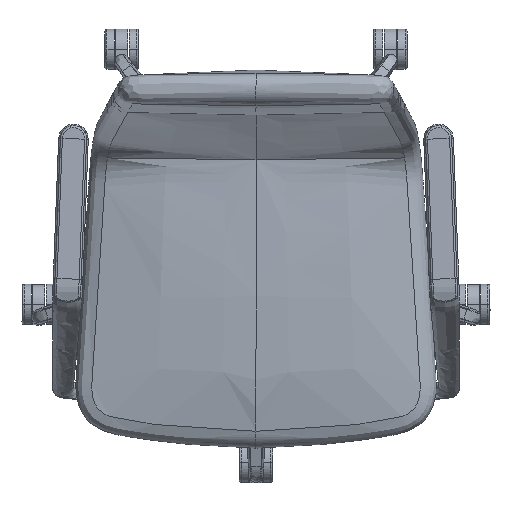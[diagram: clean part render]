
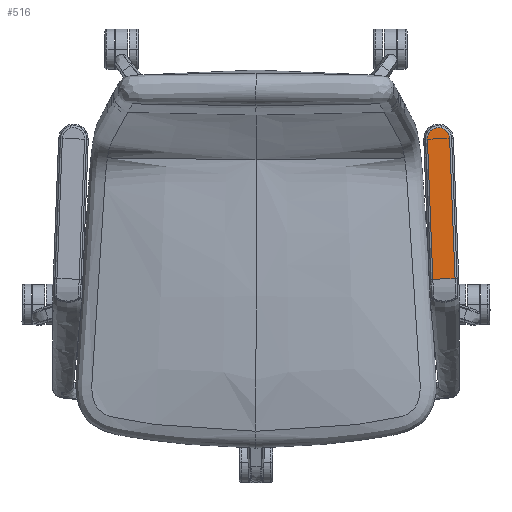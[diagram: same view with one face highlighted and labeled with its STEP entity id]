
A CAD part, top view. The second image highlights one B-rep face of the part: STEP entity #516.
In plain terms, the highlighted planar face has unit normal (-0.001, 0.019, 1).
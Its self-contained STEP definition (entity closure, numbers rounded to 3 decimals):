
#166=PLANE('',#6470);
#516=ADVANCED_FACE('',(#947),#166,.T.);
#947=FACE_OUTER_BOUND('',#1378,.T.);
#1378=EDGE_LOOP('',(#2503,#2504));
#2503=ORIENTED_EDGE('',*,*,#3967,.T.);
#2504=ORIENTED_EDGE('',*,*,#3974,.F.);
#3967=EDGE_CURVE('',#5780,#5775,#4692,.T.);
#3974=EDGE_CURVE('',#5780,#5775,#5137,.T.);
#4692=B_SPLINE_CURVE_WITH_KNOTS('',1,(#17086,#17087),.UNSPECIFIED.,.F.,
 .F.,(2,2),(0.077,0.923),.UNSPECIFIED.);
#5137=(
BOUNDED_CURVE()
B_SPLINE_CURVE(3,(#17149,#17150,#17151,#17152,#17153,#17154,#17155,#17156,
#17157,#17158,#17159,#17160,#17161,#17162,#17163,#17164,#17165,#17166,#17167,
#17168,#17169,#17170,#17171),.UNSPECIFIED.,.F.,.F.)
B_SPLINE_CURVE_WITH_KNOTS((4,3,3,1,1,1,1,1,1,1,3,3,4),(0.,
4.793,208.24,214.719,221.199,227.678,
234.157,240.637,247.116,253.596,260.075,
463.522,468.315),.UNSPECIFIED.)
CURVE()
GEOMETRIC_REPRESENTATION_ITEM()
RATIONAL_B_SPLINE_CURVE((1.,1.,1.,1.,1.,1.,1.,1.,1.,1.,1.,
1.,1.,1.,1.,1.,1.,1.,
1.,1.,1.,1.,1.))
REPRESENTATION_ITEM('')
);
#5775=VERTEX_POINT('',#16967);
#5780=VERTEX_POINT('',#16972);
#6470=AXIS2_PLACEMENT_3D('',#16609,#6573,$);
#6573=DIRECTION('',(-0.001,0.019,1.));
#16609=CARTESIAN_POINT('',(289.75,179.126,650.772));
#16967=CARTESIAN_POINT('',(295.503,-48.519,655.148));
#16972=CARTESIAN_POINT('',(262.527,-49.788,655.148));
#17086=CARTESIAN_POINT('',(262.527,-49.788,655.148));
#17087=CARTESIAN_POINT('',(295.503,-48.519,655.148));
#17149=CARTESIAN_POINT('',(262.527,-49.788,655.148));
#17150=CARTESIAN_POINT('',(262.466,-48.191,655.117));
#17151=CARTESIAN_POINT('',(262.404,-46.595,655.086));
#17152=CARTESIAN_POINT('',(262.343,-44.999,655.056));
#17153=CARTESIAN_POINT('',(259.738,22.754,653.753));
#17154=CARTESIAN_POINT('',(257.131,90.507,652.45));
#17155=CARTESIAN_POINT('',(254.526,158.26,651.147));
#17156=CARTESIAN_POINT('',(254.441,160.418,651.105));
#17157=CARTESIAN_POINT('',(255.135,164.766,651.022));
#17158=CARTESIAN_POINT('',(258.591,170.394,650.917));
#17159=CARTESIAN_POINT('',(263.938,174.272,650.846));
#17160=CARTESIAN_POINT('',(270.363,175.809,650.821));
#17161=CARTESIAN_POINT('',(276.886,174.77,650.846));
#17162=CARTESIAN_POINT('',(282.516,171.315,650.917));
#17163=CARTESIAN_POINT('',(286.394,165.968,651.022));
#17164=CARTESIAN_POINT('',(287.419,161.686,651.105));
#17165=CARTESIAN_POINT('',(287.501,159.528,651.147));
#17166=CARTESIAN_POINT('',(290.107,91.775,652.45));
#17167=CARTESIAN_POINT('',(292.713,24.022,653.753));
#17168=CARTESIAN_POINT('',(295.319,-43.731,655.056));
#17169=CARTESIAN_POINT('',(295.38,-45.327,655.086));
#17170=CARTESIAN_POINT('',(295.442,-46.923,655.117));
#17171=CARTESIAN_POINT('',(295.503,-48.519,655.148));
